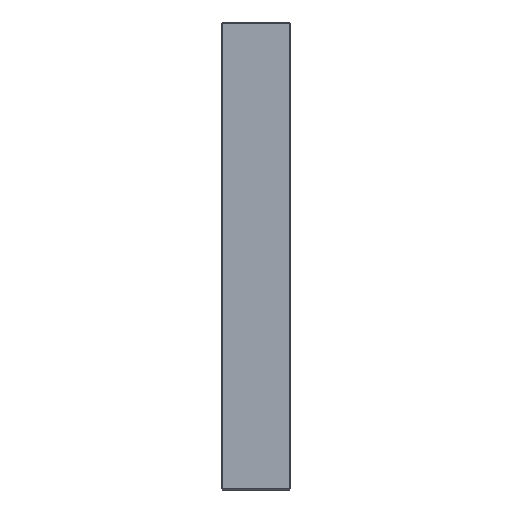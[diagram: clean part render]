
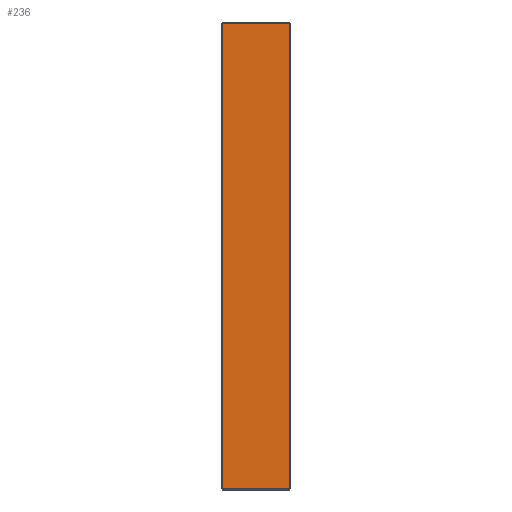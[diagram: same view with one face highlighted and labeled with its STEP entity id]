
A CAD part, left-side view. The second image highlights one B-rep face of the part: STEP entity #236.
In plain terms, the highlighted planar face has unit normal (-1, 0, 0).
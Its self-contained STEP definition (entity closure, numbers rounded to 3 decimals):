
#7 = CARTESIAN_POINT ( 'NONE',  ( -198., 1., -222. ) ) ;
#204 = VECTOR ( 'NONE', #1963, 1000. ) ;
#236 = ADVANCED_FACE ( 'NONE', ( #1143 ), #1429, .F. ) ;
#761 = VERTEX_POINT ( 'NONE', #7 ) ;
#773 = LINE ( 'NONE', #1300, #1836 ) ;
#848 = AXIS2_PLACEMENT_3D ( 'NONE', #1332, #1259, #1230 ) ;
#906 = LINE ( 'NONE', #1510, #2434 ) ;
#1070 = EDGE_CURVE ( 'NONE', #761, #1937, #773, .T. ) ;
#1143 = FACE_OUTER_BOUND ( 'NONE', #1474, .T. ) ;
#1194 = CARTESIAN_POINT ( 'NONE',  ( -198., 65., -222. ) ) ;
#1230 = DIRECTION ( 'NONE',  ( 0., 0., -1. ) ) ;
#1259 = DIRECTION ( 'NONE',  ( 1., 0., 0. ) ) ;
#1272 = DIRECTION ( 'NONE',  ( 0., 0., 1. ) ) ;
#1300 = CARTESIAN_POINT ( 'NONE',  ( -198., 1., 223. ) ) ;
#1309 = CARTESIAN_POINT ( 'NONE',  ( -198., 65., 223. ) ) ;
#1332 = CARTESIAN_POINT ( 'NONE',  ( -198., 66., 223. ) ) ;
#1339 = EDGE_CURVE ( 'NONE', #1980, #761, #2372, .T. ) ;
#1409 = CARTESIAN_POINT ( 'NONE',  ( -198., 65., 222. ) ) ;
#1429 = PLANE ( 'NONE',  #848 ) ;
#1473 = DIRECTION ( 'NONE',  ( 0., 1., 0. ) ) ;
#1474 = EDGE_LOOP ( 'NONE', ( #1751, #2145, #2172, #2205 ) ) ;
#1510 = CARTESIAN_POINT ( 'NONE',  ( -198., 66., 222. ) ) ;
#1685 = EDGE_CURVE ( 'NONE', #2186, #1980, #1907, .T. ) ;
#1688 = CARTESIAN_POINT ( 'NONE',  ( -198., 1., 222. ) ) ;
#1751 = ORIENTED_EDGE ( 'NONE', *, *, #2068, .T. ) ;
#1836 = VECTOR ( 'NONE', #1272, 1000. ) ;
#1846 = VECTOR ( 'NONE', #2350, 1000. ) ;
#1907 = LINE ( 'NONE', #1309, #204 ) ;
#1937 = VERTEX_POINT ( 'NONE', #1688 ) ;
#1963 = DIRECTION ( 'NONE',  ( 0., 0., -1. ) ) ;
#1980 = VERTEX_POINT ( 'NONE', #1194 ) ;
#2068 = EDGE_CURVE ( 'NONE', #1937, #2186, #906, .T. ) ;
#2145 = ORIENTED_EDGE ( 'NONE', *, *, #1685, .T. ) ;
#2172 = ORIENTED_EDGE ( 'NONE', *, *, #1339, .T. ) ;
#2186 = VERTEX_POINT ( 'NONE', #1409 ) ;
#2205 = ORIENTED_EDGE ( 'NONE', *, *, #1070, .T. ) ;
#2350 = DIRECTION ( 'NONE',  ( 0., -1., 0. ) ) ;
#2372 = LINE ( 'NONE', #2430, #1846 ) ;
#2430 = CARTESIAN_POINT ( 'NONE',  ( -198., 66., -222. ) ) ;
#2434 = VECTOR ( 'NONE', #1473, 1000. ) ;
